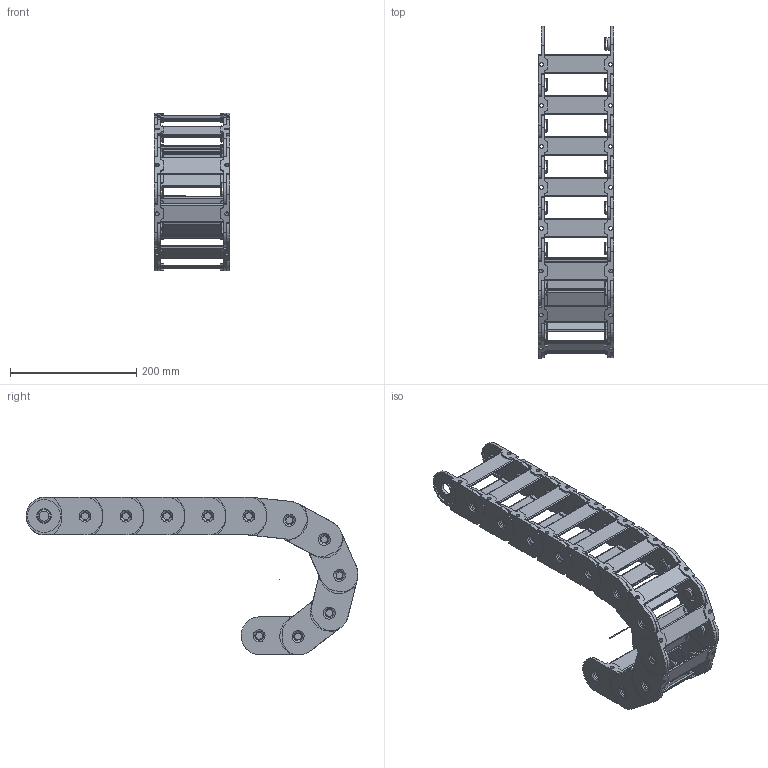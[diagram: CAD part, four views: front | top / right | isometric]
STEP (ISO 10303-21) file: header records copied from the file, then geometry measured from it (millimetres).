
FILE_DESCRIPTION((''),'2;1');
FILE_NAME('C:\Uebbing\TRACE PARTS\PKK\PKK 241\PKK 241 vereinfacht.stp','2013-05-03T08:37:51',('Uebbing'),(''),'Autodesk Inventor 10','Autodesk Inventor 10','');
FILE_SCHEMA(('AUTOMOTIVE_DESIGN { 1 0 10303 214 1 1 1 1 }'));
Length unit declared in the file: millimetre
Products named in the file (5): PKK 241 vereinfacht; Achse; PKK 240 Glied vereinfacht; PKK240 Lasche vereinfacht; 22 Steg vereinfacht
Assembly tree (16 placements, depth 3):
  PKK 241 vereinfacht
    Achse
    PKK 240 Glied vereinfacht  x11
      PKK240 Lasche vereinfacht
      22 Steg vereinfacht
Bounding box: 120 x 526.27 x 250.07 mm (x, y, z)
Volume: 955858.4 mm3; surface area: 580361.5 mm2
Topology: 45 solids, 45 shells, 1961 faces, 5064 edges, 3325 vertices
Faces by surface type: plane 1080, cylinder 595, bspline 242, torus 44
Full cylindrical faces by diameter (mm): 1 x1, 6.1 x22, 15 x22, 20 x22, 20.1 x22, 23 x44, 52 x44
Entity records: 2990 total; most frequent: CARTESIAN_POINT 561, DIRECTION 490, ORIENTED_EDGE 442, EDGE_CURVE 221, AXIS2_PLACEMENT_3D 167, VECTOR 156, LINE 156, VERTEX_POINT 153
